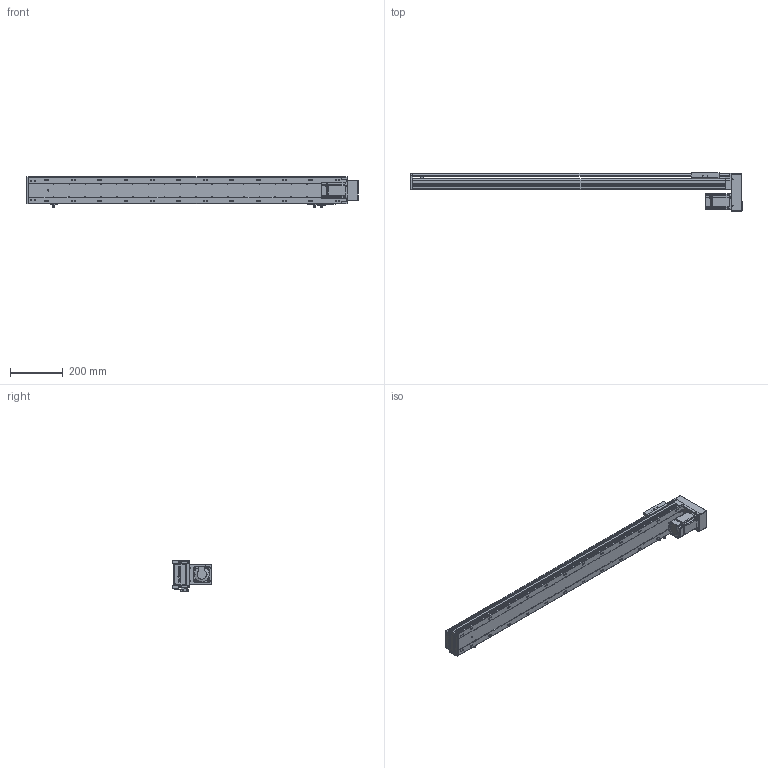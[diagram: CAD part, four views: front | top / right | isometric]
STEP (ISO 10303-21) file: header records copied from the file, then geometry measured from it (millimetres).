
FILE_DESCRIPTION (( 'STEP AP203' ), '1' );
FILE_NAME ('RY100S-L1620-950-BK(15双轨).SLDASM_1000.step', '2021-03-12T06:41:39', ( '盈信电脑' ), ( '东莞市道滘镇水果街19号' ), 'SwSTEP 2.0', 'SolidWorks 2012', '' );
FILE_SCHEMA (( 'CONFIG_CONTROL_DESIGN' ));
Length unit declared in the file: millimetre
Products named in the file (15): RY100S-狟殏萇儂傷-BK(15邧寢)_350; RY100S狟殏萇儂欶(15邧寢); RY100S-L1620-950-BK(15邧寢).SLDASM_1000; RY100S下折电机安装板（15双轨）; 侂狟200W萇儂; 滅袉蝶18-24; RY100綴裔啣; 1; 覜茼ん672; RY100俋离覜茼え; RY100S转折电机端支撑座(15双轨); 滅袉蝶18-10; RY100S铝滑块（15双轨单滑块）; RY100S-950-RK转折型材上盖(15双轨)_1000; RY100S-950-RK转折型材底座(15双轨)_1000
Assembly tree (17 placements, depth 4):
  RY100S-L1620-950-BK(15邧寢).SLDASM_1000
    RY100S-950-RK转折型材底座(15双轨)_1000
    RY100S-950-RK转折型材上盖(15双轨)_1000
    RY100S铝滑块（15双轨单滑块）
    覜茼ん672  x3
    滅袉蝶18-10  x2
    RY100俋离覜茼え
    RY100S转折电机端支撑座(15双轨)
    滅袉蝶18-24
    RY100綴裔啣
    RY100S-狟殏萇儂傷-BK(15邧寢)_350
      侂狟200W萇儂
        1
      RY100S下折电机安装板（15双轨）
      RY100S狟殏萇儂欶(15邧寢)
Bounding box: 1257 x 147 x 117.2 mm (x, y, z)
Volume: 2454216.7 mm3; surface area: 1070686.7 mm2
Topology: 15 solids, 15 shells, 2499 faces, 7042 edges, 4576 vertices
Faces by surface type: plane 1288, cylinder 986, cone 137, bspline 88
Entity records: 82935 total; most frequent: CARTESIAN_POINT 21438, ORIENTED_EDGE 12892, DIRECTION 11995, EDGE_CURVE 6446, VERTEX_POINT 4244, AXIS2_PLACEMENT_3D 4048, VECTOR 3899, LINE 3899
